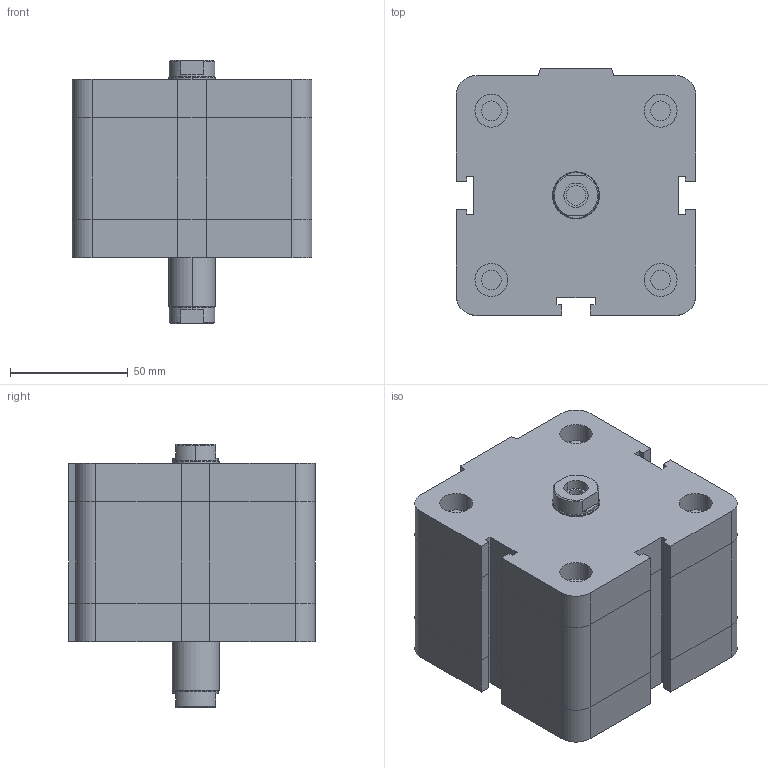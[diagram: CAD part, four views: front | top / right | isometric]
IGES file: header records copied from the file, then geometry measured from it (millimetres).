
Global section: file name: No Iges File Name specified; native system: Autodesk Inventor 2009; preprocessor: AutoDesk Inventor Iges Exporter R2009; author: maffial1; date: 20090420.200429; units: millimetre
Bounding box: 102 x 105 x 112 mm (x, y, z)
Volume: 760604.5 mm3; surface area: 75038.4 mm2
Topology: 2 solids, 2 shells, 202 faces, 450 edges, 274 vertices
Faces by surface type: plane 114, bspline 42, revolution 20, cylinder 18, cone 8
